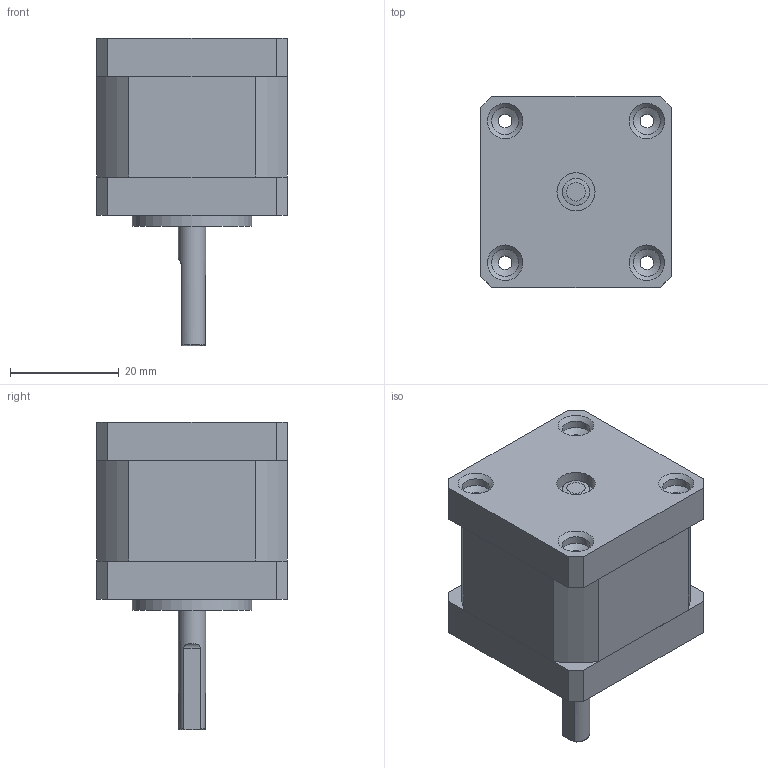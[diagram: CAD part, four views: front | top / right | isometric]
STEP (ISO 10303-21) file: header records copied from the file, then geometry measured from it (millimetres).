
FILE_DESCRIPTION( ('This file contains a STEP AP42 implementation' ,'as created by ZW3D STEP Interface translator.') ,'2;1' );
FILE_NAME( 'AM510A-35A0020-0000.stp' ,'24 724.172348', (''), ('ZWCAD Software Co.'), 'Version 1.0', 'ZW3D to STEP translator', '' );
FILE_SCHEMA(('AUTOMOTIVE_DESIGN { 1 0 10303 214 1 1 1 1 }'));
Length unit declared in the file: millimetre
Products named in the file (2): 0; 睽捶35
Bounding box: 35 x 35 x 56.5 mm (x, y, z)
Volume: 39710 mm3; surface area: 15431.7 mm2
Topology: 6 solids, 6 shells, 71 faces, 172 edges, 117 vertices
Faces by surface type: plane 33, cylinder 28, cone 8, bspline 2
Full cylindrical faces by diameter (mm): 2.5 x12, 5 x5, 7 x4, 8 x1, 22 x1
Entity records: 2302 total; most frequent: CARTESIAN_POINT 435, DIRECTION 374, ORIENTED_EDGE 328, EDGE_CURVE 164, AXIS2_PLACEMENT_3D 138, VERTEX_POINT 105, EDGE_LOOP 103, VECTOR 98
